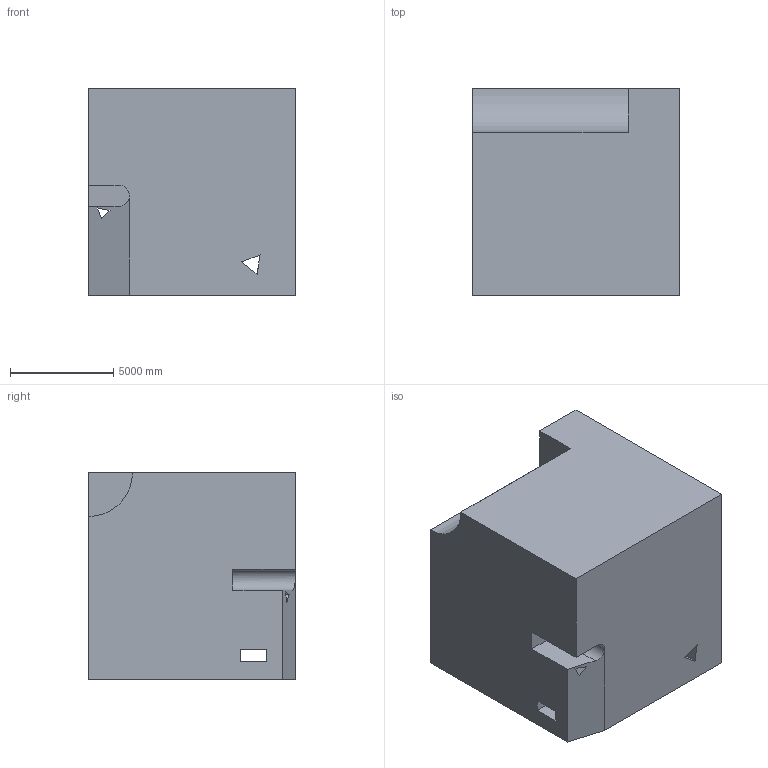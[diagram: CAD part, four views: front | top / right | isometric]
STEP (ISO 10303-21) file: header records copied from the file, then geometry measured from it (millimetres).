
FILE_DESCRIPTION (( 'STEP AP203' ), '1' );
FILE_NAME ('174.STEP', '2022-09-06T15:21:25', ( 'user' ), ( '' ), 'SwSTEP 2.0', 'SolidWorks 2021', '' );
FILE_SCHEMA (( 'CONFIG_CONTROL_DESIGN' ));
Length unit declared in the file: centimetre
Products named in the file (1): 174
Bounding box: 10000 x 10000 x 10000 mm (x, y, z)
Volume: 940062616359.9 mm3; surface area: 704560437 mm2
Topology: 1 solids, 1 shells, 33 faces, 93 edges, 62 vertices
Faces by surface type: plane 27, cylinder 6
Entity records: 1152 total; most frequent: CARTESIAN_POINT 192, ORIENTED_EDGE 186, DIRECTION 172, EDGE_CURVE 93, VECTOR 80, LINE 80, VERTEX_POINT 62, AXIS2_PLACEMENT_3D 46
